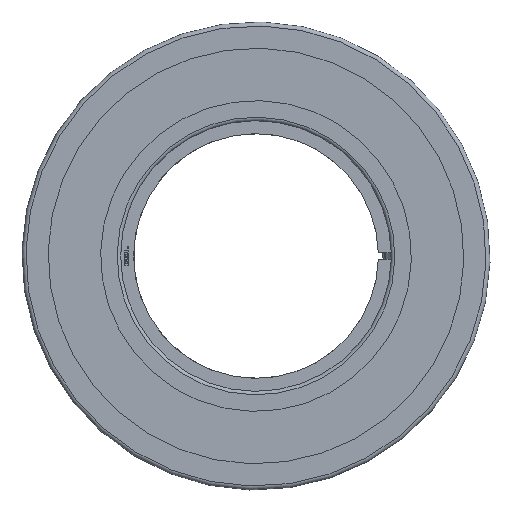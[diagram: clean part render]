
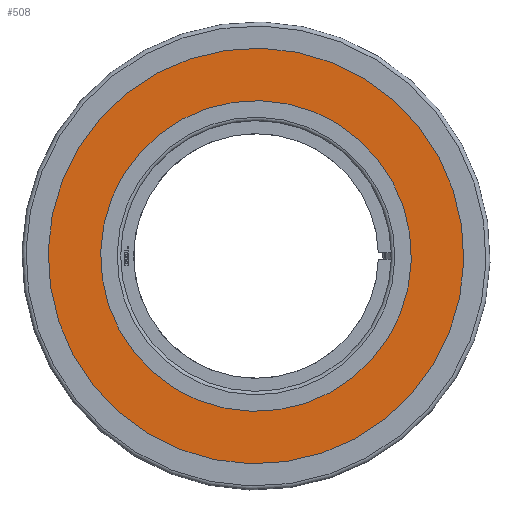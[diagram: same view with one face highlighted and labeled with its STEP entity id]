
A CAD part, left-side view. The second image highlights one B-rep face of the part: STEP entity #508.
In plain terms, the highlighted planar face has unit normal (-1, 0, 0).
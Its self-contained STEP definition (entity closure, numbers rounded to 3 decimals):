
#508 = ADVANCED_FACE( '', ( #1133, #1134 ), #1135, .T. );
#1133 = FACE_BOUND( '', #1906, .T. );
#1134 = FACE_OUTER_BOUND( '', #1907, .T. );
#1135 = PLANE( '', #1908 );
#1906 = EDGE_LOOP( '', ( #4016 ) );
#1907 = EDGE_LOOP( '', ( #4017 ) );
#1908 = AXIS2_PLACEMENT_3D( '', #4018, #4019, #4020 );
#4016 = ORIENTED_EDGE( '', *, *, #5535, .T. );
#4017 = ORIENTED_EDGE( '', *, *, #5534, .F. );
#4018 = CARTESIAN_POINT( '', ( -213.5, 257.5, 0. ) );
#4019 = DIRECTION( '', ( -1., 0., 0. ) );
#4020 = DIRECTION( '', ( 0., 0., 1. ) );
#5534 = EDGE_CURVE( '', #6792, #6792, #6793, .T. );
#5535 = EDGE_CURVE( '', #6794, #6794, #6795, .T. );
#6792 = VERTEX_POINT( '', #8841 );
#6793 = CIRCLE( '', #8842, 257.5 );
#6794 = VERTEX_POINT( '', #8843 );
#6795 = CIRCLE( '', #8844, 192.5 );
#8841 = CARTESIAN_POINT( '', ( -213.5, 0., -257.5 ) );
#8842 = AXIS2_PLACEMENT_3D( '', #10398, #10399, #10400 );
#8843 = CARTESIAN_POINT( '', ( -213.5, 0., -192.5 ) );
#8844 = AXIS2_PLACEMENT_3D( '', #10401, #10402, #10403 );
#10398 = CARTESIAN_POINT( '', ( -213.5, 0., 0. ) );
#10399 = DIRECTION( '', ( 1., 0., 0. ) );
#10400 = DIRECTION( '', ( 0., 0., -1. ) );
#10401 = CARTESIAN_POINT( '', ( -213.5, 0., 0. ) );
#10402 = DIRECTION( '', ( 1., 0., 0. ) );
#10403 = DIRECTION( '', ( 0., 0., -1. ) );
